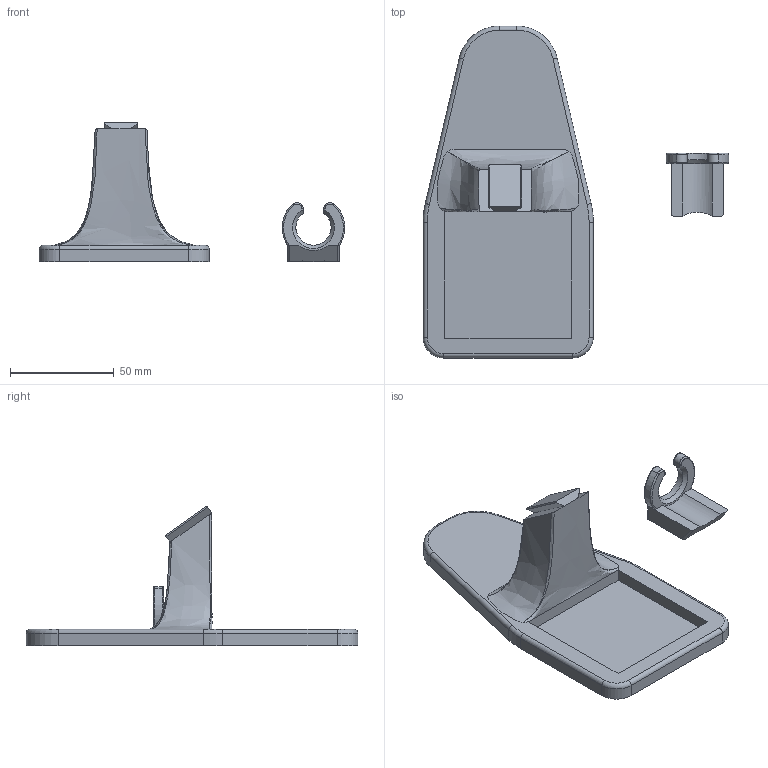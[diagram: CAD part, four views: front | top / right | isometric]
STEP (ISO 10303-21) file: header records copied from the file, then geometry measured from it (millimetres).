
FILE_DESCRIPTION(/* description */ (''),/* implementation_level */ '2;1');
FILE_NAME(/* name */ 'soldering_iron_stand v20.step',/* time_stamp */ '2023-04-16T20:51:12+04:00',/* author */ (''),/* organization */ (''),/* preprocessor_version */ 'ST-DEVELOPER v19.2',/* originating_system */ 'Autodesk Translation Framework v12.4.0.73',/* authorisation */ '');
FILE_SCHEMA (('AUTOMOTIVE_DESIGN { 1 0 10303 214 3 1 1 }'));
Length unit declared in the file: millimetre
Products named in the file (1): soldering_iron_stand
Bounding box: 147.38 x 160 x 67.39 mm (x, y, z)
Volume: 106965.5 mm3; surface area: 35322 mm2
Topology: 2 solids, 2 shells, 88 faces, 227 edges, 140 vertices
Faces by surface type: plane 35, cylinder 30, torus 14, bspline 8, cone 1
Entity records: 3396 total; most frequent: CARTESIAN_POINT 1288, ORIENTED_EDGE 446, DIRECTION 419, EDGE_CURVE 223, AXIS2_PLACEMENT_3D 154, VERTEX_POINT 140, LINE 111, VECTOR 111
